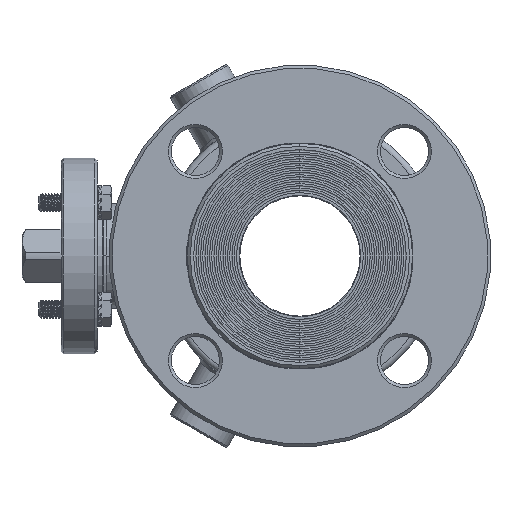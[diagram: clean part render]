
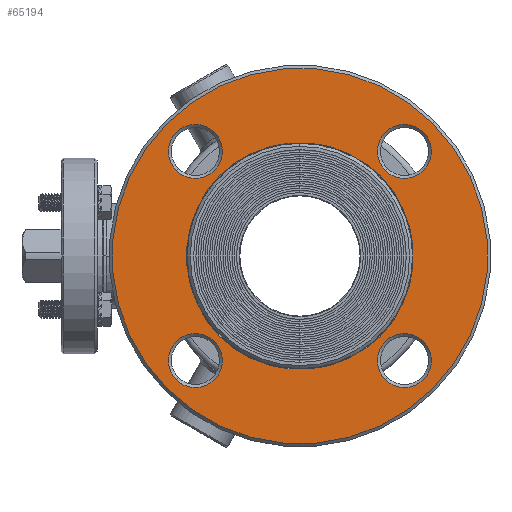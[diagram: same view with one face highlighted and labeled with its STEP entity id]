
A CAD part, left-side view. The second image highlights one B-rep face of the part: STEP entity #65194.
In plain terms, the highlighted planar face has unit normal (-1, 0, 0).
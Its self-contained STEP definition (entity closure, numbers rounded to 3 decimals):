
#1945=CARTESIAN_POINT('',(-68.,0.,0.));
#1946=DIRECTION('',(1.,0.,0.));
#1947=DIRECTION('',(0.,0.707,-0.707));
#1948=AXIS2_PLACEMENT_3D('',#1945,#1946,#1947);
#1991=CARTESIAN_POINT('',(-68.,0.,0.));
#1992=DIRECTION('',(-1.,0.,0.));
#1993=DIRECTION('',(0.,0.707,-0.707));
#1994=AXIS2_PLACEMENT_3D('',#1991,#1992,#1993);
#2006=CARTESIAN_POINT('',(-68.,0.,0.));
#2007=DIRECTION('',(-1.,0.,0.));
#2008=DIRECTION('',(0.,0.707,-0.707));
#2009=AXIS2_PLACEMENT_3D('',#2006,#2007,#2008);
#2036=CARTESIAN_POINT('',(-68.,0.,0.));
#2037=DIRECTION('',(1.,0.,0.));
#2038=DIRECTION('',(0.,0.707,-0.707));
#2039=AXIS2_PLACEMENT_3D('',#2036,#2037,#2038);
#57291=CARTESIAN_POINT('',(-68.,34.79,-34.79));
#57292=DIRECTION('',(1.,0.,0.));
#57293=DIRECTION('',(0.,0.707,-0.707));
#57294=AXIS2_PLACEMENT_3D('',#57291,#57292,#57293);
#57321=CARTESIAN_POINT('',(-68.,34.79,-34.79));
#57322=DIRECTION('',(1.,0.,0.));
#57323=DIRECTION('',(0.,-0.707,0.707));
#57324=AXIS2_PLACEMENT_3D('',#57321,#57322,#57323);
#57397=CARTESIAN_POINT('',(-68.,34.79,34.79));
#57398=DIRECTION('',(1.,0.,0.));
#57399=DIRECTION('',(0.,0.707,-0.707));
#57400=AXIS2_PLACEMENT_3D('',#57397,#57398,#57399);
#57413=CARTESIAN_POINT('',(-68.,34.79,34.79));
#57414=DIRECTION('',(1.,0.,0.));
#57415=DIRECTION('',(0.,-0.707,0.707));
#57416=AXIS2_PLACEMENT_3D('',#57413,#57414,#57415);
#57503=CARTESIAN_POINT('',(-68.,-34.79,34.79));
#57504=DIRECTION('',(1.,0.,0.));
#57505=DIRECTION('',(0.,0.707,-0.707));
#57506=AXIS2_PLACEMENT_3D('',#57503,#57504,#57505);
#57533=CARTESIAN_POINT('',(-68.,-34.79,34.79));
#57534=DIRECTION('',(1.,0.,0.));
#57535=DIRECTION('',(0.,-0.707,0.707));
#57536=AXIS2_PLACEMENT_3D('',#57533,#57534,#57535);
#57609=CARTESIAN_POINT('',(-68.,-34.79,-34.79));
#57610=DIRECTION('',(1.,0.,0.));
#57611=DIRECTION('',(0.,0.707,-0.707));
#57612=AXIS2_PLACEMENT_3D('',#57609,#57610,#57611);
#57639=CARTESIAN_POINT('',(-68.,-34.79,-34.79));
#57640=DIRECTION('',(1.,0.,0.));
#57641=DIRECTION('',(0.,-0.707,0.707));
#57642=AXIS2_PLACEMENT_3D('',#57639,#57640,#57641);
#60676=CARTESIAN_POINT('',(-68.,26.693,-26.693));
#60677=CARTESIAN_POINT('',(-68.,-26.693,26.693));
#60678=VERTEX_POINT('',#60676);
#60679=VERTEX_POINT('',#60677);
#60680=CARTESIAN_POINT('',(-68.,44.194,-44.194));
#60681=CARTESIAN_POINT('',(-68.,-44.194,44.194));
#60682=VERTEX_POINT('',#60680);
#60683=VERTEX_POINT('',#60681);
#60736=CARTESIAN_POINT('',(-68.,-41.154,41.154));
#60737=CARTESIAN_POINT('',(-68.,-28.426,28.426));
#60738=VERTEX_POINT('',#60736);
#60739=VERTEX_POINT('',#60737);
#60744=CARTESIAN_POINT('',(-68.,-41.154,-28.426));
#60745=CARTESIAN_POINT('',(-68.,-28.426,-41.154));
#60746=VERTEX_POINT('',#60744);
#60747=VERTEX_POINT('',#60745);
#60752=CARTESIAN_POINT('',(-68.,28.426,-28.426));
#60753=CARTESIAN_POINT('',(-68.,41.154,-41.154));
#60754=VERTEX_POINT('',#60752);
#60755=VERTEX_POINT('',#60753);
#60760=CARTESIAN_POINT('',(-68.,41.154,28.426));
#60761=CARTESIAN_POINT('',(-68.,28.426,41.154));
#60762=VERTEX_POINT('',#60760);
#60763=VERTEX_POINT('',#60761);
#65155=CARTESIAN_POINT('',(-68.,0.,0.));
#65156=DIRECTION('',(-1.,0.,0.));
#65157=DIRECTION('',(0.,0.707,-0.707));
#65158=AXIS2_PLACEMENT_3D('',#65155,#65156,#65157);
#65159=PLANE('',#65158);
#65161=ORIENTED_EDGE('',*,*,#65160,.F.);
#65163=ORIENTED_EDGE('',*,*,#65162,.T.);
#65164=EDGE_LOOP('',(#65161,#65163));
#65165=FACE_OUTER_BOUND('',#65164,.F.);
#65166=ORIENTED_EDGE('',*,*,#65106,.F.);
#65167=ORIENTED_EDGE('',*,*,#65149,.T.);
#65168=EDGE_LOOP('',(#65166,#65167));
#65169=FACE_BOUND('',#65168,.F.);
#65171=ORIENTED_EDGE('',*,*,#65170,.F.);
#65173=ORIENTED_EDGE('',*,*,#65172,.F.);
#65174=EDGE_LOOP('',(#65171,#65173));
#65175=FACE_BOUND('',#65174,.F.);
#65177=ORIENTED_EDGE('',*,*,#65176,.F.);
#65179=ORIENTED_EDGE('',*,*,#65178,.F.);
#65180=EDGE_LOOP('',(#65177,#65179));
#65181=FACE_BOUND('',#65180,.F.);
#65183=ORIENTED_EDGE('',*,*,#65182,.F.);
#65185=ORIENTED_EDGE('',*,*,#65184,.F.);
#65186=EDGE_LOOP('',(#65183,#65185));
#65187=FACE_BOUND('',#65186,.F.);
#65189=ORIENTED_EDGE('',*,*,#65188,.F.);
#65191=ORIENTED_EDGE('',*,*,#65190,.F.);
#65192=EDGE_LOOP('',(#65189,#65191));
#65193=FACE_BOUND('',#65192,.F.);
#65194=ADVANCED_FACE('',(#65165,#65169,#65175,#65181,#65187,#65193),#65159,.T.);
#1949=CIRCLE('',#1948,37.75);
#1995=CIRCLE('',#1994,37.75);
#2010=CIRCLE('',#2009,62.5);
#2040=CIRCLE('',#2039,62.5);
#57295=CIRCLE('',#57294,9.);
#57325=CIRCLE('',#57324,9.);
#57401=CIRCLE('',#57400,9.);
#57417=CIRCLE('',#57416,9.);
#57507=CIRCLE('',#57506,9.);
#57537=CIRCLE('',#57536,9.);
#57613=CIRCLE('',#57612,9.);
#57643=CIRCLE('',#57642,9.);
#65106=EDGE_CURVE('',#60678,#60679,#1949,.T.);
#65149=EDGE_CURVE('',#60678,#60679,#1995,.T.);
#65160=EDGE_CURVE('',#60682,#60683,#2010,.T.);
#65162=EDGE_CURVE('',#60682,#60683,#2040,.T.);
#65170=EDGE_CURVE('',#60755,#60754,#57295,.T.);
#65172=EDGE_CURVE('',#60754,#60755,#57325,.T.);
#65176=EDGE_CURVE('',#60762,#60763,#57401,.T.);
#65178=EDGE_CURVE('',#60763,#60762,#57417,.T.);
#65182=EDGE_CURVE('',#60739,#60738,#57507,.T.);
#65184=EDGE_CURVE('',#60738,#60739,#57537,.T.);
#65188=EDGE_CURVE('',#60747,#60746,#57613,.T.);
#65190=EDGE_CURVE('',#60746,#60747,#57643,.T.);
